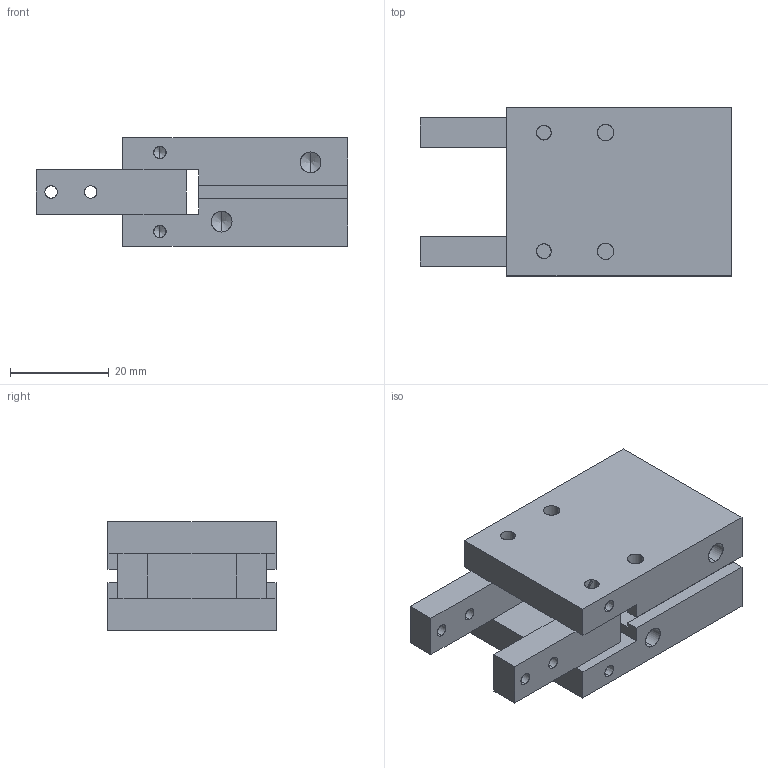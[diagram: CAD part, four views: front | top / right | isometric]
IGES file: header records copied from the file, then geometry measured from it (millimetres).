
Start section: SolidWorks IGES file using analytic representation for surfaces
Global section: file name: D:\MI\新增資料夾\Angular 2 Finger Gripper\FCHY-16.IGS; native system: SolidWorks 2013; preprocessor: SolidWorks 2013; author: Sam Lin; date: 160329.142119; units: millimetre
Bounding box: 63 x 34 x 22 mm (x, y, z)
Surface area: 11262.4 mm2 (no closed solid volume)
Topology: 0 solids, 0 shells, 113 faces, 1992 edges, 1972 vertices
Faces by surface type: revolution 70, bspline 43
